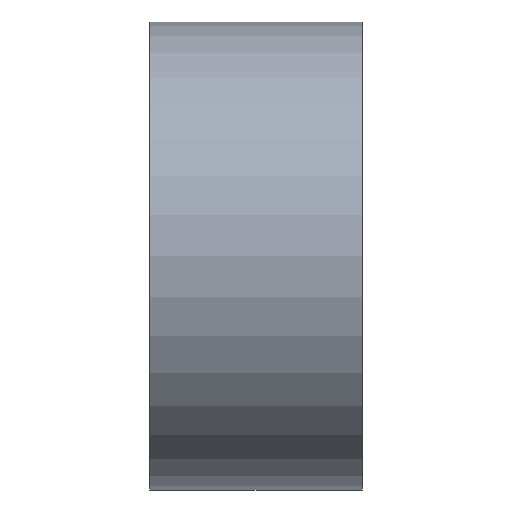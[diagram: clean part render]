
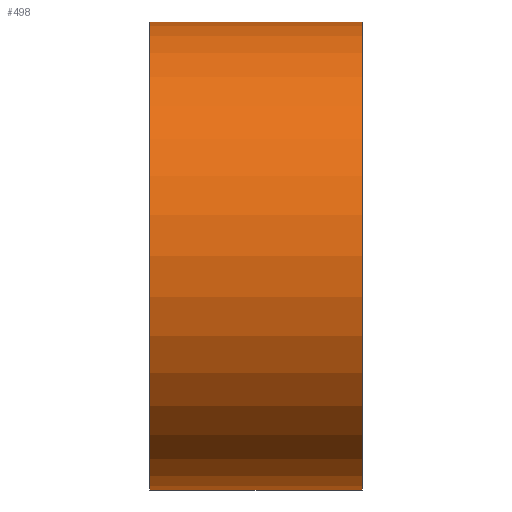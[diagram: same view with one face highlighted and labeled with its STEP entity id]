
A CAD part, left-side view. The second image highlights one B-rep face of the part: STEP entity #498.
In plain terms, the highlighted cylindrical face has radius 5.5 mm (diameter 11 mm), a partial arc.
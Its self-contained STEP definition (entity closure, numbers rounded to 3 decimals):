
#44 = PLANE('',#45);
#45 = AXIS2_PLACEMENT_3D('',#46,#47,#48);
#46 = CARTESIAN_POINT('',(-12.,0.,-5.5));
#47 = DIRECTION('',(0.,0.,1.));
#48 = DIRECTION('',(1.,0.,0.));
#73 = PLANE('',#74);
#74 = AXIS2_PLACEMENT_3D('',#75,#76,#77);
#75 = CARTESIAN_POINT('',(-6.,-5.,0.));
#76 = DIRECTION('',(0.,1.,0.));
#77 = DIRECTION('',(0.,0.,1.));
#105 = PLANE('',#106);
#106 = AXIS2_PLACEMENT_3D('',#107,#108,#109);
#107 = CARTESIAN_POINT('',(0.,0.,5.5));
#108 = DIRECTION('',(0.,0.,-1.));
#109 = DIRECTION('',(-1.,0.,0.));
#132 = PLANE('',#133);
#133 = AXIS2_PLACEMENT_3D('',#134,#135,#136);
#134 = CARTESIAN_POINT('',(-6.,0.,0.));
#135 = DIRECTION('',(0.,1.,0.));
#136 = DIRECTION('',(0.,0.,1.));
#151 = EDGE_CURVE('',#152,#154,#156,.T.);
#152 = VERTEX_POINT('',#153);
#153 = CARTESIAN_POINT('',(-12.,0.,-5.5));
#154 = VERTEX_POINT('',#155);
#155 = CARTESIAN_POINT('',(-12.,-5.,-5.5));
#156 = SURFACE_CURVE('',#157,(#161,#168),.PCURVE_S1.);
#157 = LINE('',#158,#159);
#158 = CARTESIAN_POINT('',(-12.,0.,-5.5));
#159 = VECTOR('',#160,1.);
#160 = DIRECTION('',(0.,-1.,0.));
#161 = PCURVE('',#44,#162);
#162 = DEFINITIONAL_REPRESENTATION('',(#163),#167);
#163 = LINE('',#164,#165);
#164 = CARTESIAN_POINT('',(0.,0.));
#165 = VECTOR('',#166,1.);
#166 = DIRECTION('',(0.,-1.));
#167 = ( GEOMETRIC_REPRESENTATION_CONTEXT(2) 
PARAMETRIC_REPRESENTATION_CONTEXT() REPRESENTATION_CONTEXT('2D SPACE',''
  ) );
#168 = PCURVE('',#169,#174);
#169 = CYLINDRICAL_SURFACE('',#170,5.5);
#170 = AXIS2_PLACEMENT_3D('',#171,#172,#173);
#171 = CARTESIAN_POINT('',(-12.,0.,0.));
#172 = DIRECTION('',(0.,1.,0.));
#173 = DIRECTION('',(1.,0.,0.));
#174 = DEFINITIONAL_REPRESENTATION('',(#175),#179);
#175 = LINE('',#176,#177);
#176 = CARTESIAN_POINT('',(-4.712,0.));
#177 = VECTOR('',#178,1.);
#178 = DIRECTION('',(-0.,-1.));
#179 = ( GEOMETRIC_REPRESENTATION_CONTEXT(2) 
PARAMETRIC_REPRESENTATION_CONTEXT() REPRESENTATION_CONTEXT('2D SPACE',''
  ) );
#229 = VERTEX_POINT('',#230);
#230 = CARTESIAN_POINT('',(-12.,-5.,5.5));
#251 = EDGE_CURVE('',#252,#229,#254,.T.);
#252 = VERTEX_POINT('',#253);
#253 = CARTESIAN_POINT('',(-12.,0.,5.5));
#254 = SURFACE_CURVE('',#255,(#259,#266),.PCURVE_S1.);
#255 = LINE('',#256,#257);
#256 = CARTESIAN_POINT('',(-12.,0.,5.5));
#257 = VECTOR('',#258,1.);
#258 = DIRECTION('',(0.,-1.,0.));
#259 = PCURVE('',#105,#260);
#260 = DEFINITIONAL_REPRESENTATION('',(#261),#265);
#261 = LINE('',#262,#263);
#262 = CARTESIAN_POINT('',(12.,0.));
#263 = VECTOR('',#264,1.);
#264 = DIRECTION('',(0.,-1.));
#265 = ( GEOMETRIC_REPRESENTATION_CONTEXT(2) 
PARAMETRIC_REPRESENTATION_CONTEXT() REPRESENTATION_CONTEXT('2D SPACE',''
  ) );
#266 = PCURVE('',#169,#267);
#267 = DEFINITIONAL_REPRESENTATION('',(#268),#272);
#268 = LINE('',#269,#270);
#269 = CARTESIAN_POINT('',(-1.571,0.));
#270 = VECTOR('',#271,1.);
#271 = DIRECTION('',(-0.,-1.));
#272 = ( GEOMETRIC_REPRESENTATION_CONTEXT(2) 
PARAMETRIC_REPRESENTATION_CONTEXT() REPRESENTATION_CONTEXT('2D SPACE',''
  ) );
#300 = EDGE_CURVE('',#252,#152,#301,.T.);
#301 = SURFACE_CURVE('',#302,(#307,#318),.PCURVE_S1.);
#302 = CIRCLE('',#303,5.5);
#303 = AXIS2_PLACEMENT_3D('',#304,#305,#306);
#304 = CARTESIAN_POINT('',(-12.,0.,0.));
#305 = DIRECTION('',(0.,-1.,0.));
#306 = DIRECTION('',(1.,0.,0.));
#307 = PCURVE('',#132,#308);
#308 = DEFINITIONAL_REPRESENTATION('',(#309),#317);
#309 = ( BOUNDED_CURVE() B_SPLINE_CURVE(2,(#310,#311,#312,#313,#314,#315
,#316),.UNSPECIFIED.,.T.,.F.) B_SPLINE_CURVE_WITH_KNOTS((1,2,2,2,2,1),(
    -2.094,0.,2.094,4.189,6.283,
8.378),.UNSPECIFIED.) CURVE() GEOMETRIC_REPRESENTATION_ITEM() 
RATIONAL_B_SPLINE_CURVE((1.,0.5,1.,0.5,1.,0.5,1.)) REPRESENTATION_ITEM(
  '') );
#310 = CARTESIAN_POINT('',(0.,-0.5));
#311 = CARTESIAN_POINT('',(9.526,-0.5));
#312 = CARTESIAN_POINT('',(4.763,-8.75));
#313 = CARTESIAN_POINT('',(0.,-17.));
#314 = CARTESIAN_POINT('',(-4.763,-8.75));
#315 = CARTESIAN_POINT('',(-9.526,-0.5));
#316 = CARTESIAN_POINT('',(0.,-0.5));
#317 = ( GEOMETRIC_REPRESENTATION_CONTEXT(2) 
PARAMETRIC_REPRESENTATION_CONTEXT() REPRESENTATION_CONTEXT('2D SPACE',''
  ) );
#318 = PCURVE('',#169,#319);
#319 = DEFINITIONAL_REPRESENTATION('',(#320),#324);
#320 = LINE('',#321,#322);
#321 = CARTESIAN_POINT('',(-0.,0.));
#322 = VECTOR('',#323,1.);
#323 = DIRECTION('',(-1.,0.));
#324 = ( GEOMETRIC_REPRESENTATION_CONTEXT(2) 
PARAMETRIC_REPRESENTATION_CONTEXT() REPRESENTATION_CONTEXT('2D SPACE',''
  ) );
#402 = EDGE_CURVE('',#229,#154,#403,.T.);
#403 = SURFACE_CURVE('',#404,(#409,#420),.PCURVE_S1.);
#404 = CIRCLE('',#405,5.5);
#405 = AXIS2_PLACEMENT_3D('',#406,#407,#408);
#406 = CARTESIAN_POINT('',(-12.,-5.,0.));
#407 = DIRECTION('',(0.,-1.,0.));
#408 = DIRECTION('',(1.,0.,0.));
#409 = PCURVE('',#73,#410);
#410 = DEFINITIONAL_REPRESENTATION('',(#411),#419);
#411 = ( BOUNDED_CURVE() B_SPLINE_CURVE(2,(#412,#413,#414,#415,#416,#417
,#418),.UNSPECIFIED.,.T.,.F.) B_SPLINE_CURVE_WITH_KNOTS((1,2,2,2,2,1),(
    -2.094,0.,2.094,4.189,6.283,
8.378),.UNSPECIFIED.) CURVE() GEOMETRIC_REPRESENTATION_ITEM() 
RATIONAL_B_SPLINE_CURVE((1.,0.5,1.,0.5,1.,0.5,1.)) REPRESENTATION_ITEM(
  '') );
#412 = CARTESIAN_POINT('',(0.,-0.5));
#413 = CARTESIAN_POINT('',(9.526,-0.5));
#414 = CARTESIAN_POINT('',(4.763,-8.75));
#415 = CARTESIAN_POINT('',(0.,-17.));
#416 = CARTESIAN_POINT('',(-4.763,-8.75));
#417 = CARTESIAN_POINT('',(-9.526,-0.5));
#418 = CARTESIAN_POINT('',(0.,-0.5));
#419 = ( GEOMETRIC_REPRESENTATION_CONTEXT(2) 
PARAMETRIC_REPRESENTATION_CONTEXT() REPRESENTATION_CONTEXT('2D SPACE',''
  ) );
#420 = PCURVE('',#169,#421);
#421 = DEFINITIONAL_REPRESENTATION('',(#422),#426);
#422 = LINE('',#423,#424);
#423 = CARTESIAN_POINT('',(-0.,-5.));
#424 = VECTOR('',#425,1.);
#425 = DIRECTION('',(-1.,0.));
#426 = ( GEOMETRIC_REPRESENTATION_CONTEXT(2) 
PARAMETRIC_REPRESENTATION_CONTEXT() REPRESENTATION_CONTEXT('2D SPACE',''
  ) );
#498 = ADVANCED_FACE('',(#499),#169,.T.);
#499 = FACE_BOUND('',#500,.F.);
#500 = EDGE_LOOP('',(#501,#502,#503,#504));
#501 = ORIENTED_EDGE('',*,*,#251,.T.);
#502 = ORIENTED_EDGE('',*,*,#402,.T.);
#503 = ORIENTED_EDGE('',*,*,#151,.F.);
#504 = ORIENTED_EDGE('',*,*,#300,.F.);
